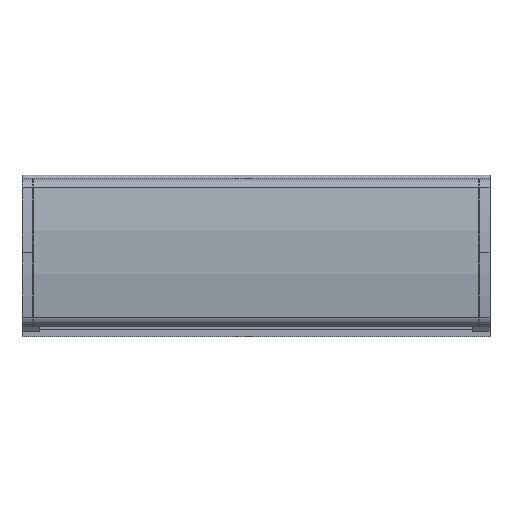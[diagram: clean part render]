
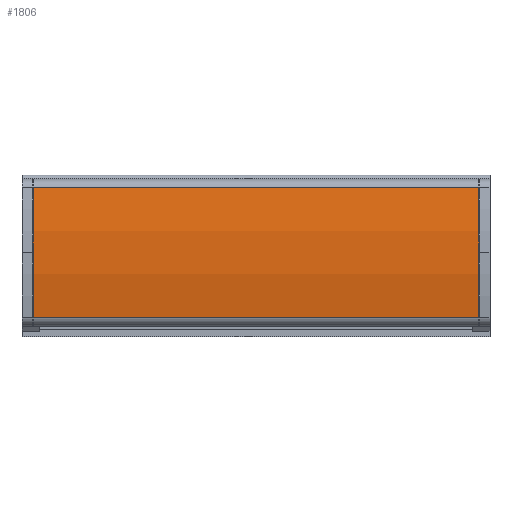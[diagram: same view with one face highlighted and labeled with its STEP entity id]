
A CAD part, top view. The second image highlights one B-rep face of the part: STEP entity #1806.
In plain terms, the highlighted cylindrical face has radius 94.514 mm (diameter 189.028 mm), a partial arc.
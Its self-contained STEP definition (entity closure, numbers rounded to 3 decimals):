
#188 = VERTEX_POINT ( 'NONE', #10835 ) ;
#303 = VECTOR ( 'NONE', #9126, 1000. ) ;
#380 = VERTEX_POINT ( 'NONE', #11849 ) ;
#448 = VECTOR ( 'NONE', #11077, 1000. ) ;
#1011 = CYLINDRICAL_SURFACE ( 'NONE', #1329, 94.514 ) ;
#1068 = AXIS2_PLACEMENT_3D ( 'NONE', #7229, #1751, #8161 ) ;
#1177 = DIRECTION ( 'NONE',  ( 1., 0., 0. ) ) ;
#1329 = AXIS2_PLACEMENT_3D ( 'NONE', #3498, #9912, #9003 ) ;
#1751 = DIRECTION ( 'NONE',  ( 1., 0., 0. ) ) ;
#1806 = ADVANCED_FACE ( 'NONE', ( #8606 ), #1011, .T. ) ;
#2404 = ORIENTED_EDGE ( 'NONE', *, *, #11282, .F. ) ;
#2411 = VERTEX_POINT ( 'NONE', #10478 ) ;
#3498 = CARTESIAN_POINT ( 'NONE',  ( 125., 4.295, 88.334 ) ) ;
#3821 = ORIENTED_EDGE ( 'NONE', *, *, #9531, .T. ) ;
#5815 = CIRCLE ( 'NONE', #7200, 94.514 ) ;
#5936 = ORIENTED_EDGE ( 'NONE', *, *, #10359, .T. ) ;
#6653 = CARTESIAN_POINT ( 'NONE',  ( 125., 4.295, 88.334 ) ) ;
#7200 = AXIS2_PLACEMENT_3D ( 'NONE', #6653, #1177, #7587 ) ;
#7229 = CARTESIAN_POINT ( 'NONE',  ( 0., 4.295, 88.334 ) ) ;
#7587 = DIRECTION ( 'NONE',  ( 0., 0., -1. ) ) ;
#7616 = LINE ( 'NONE', #8205, #303 ) ;
#7784 = CIRCLE ( 'NONE', #1068, 94.514 ) ;
#7862 = EDGE_CURVE ( 'NONE', #2411, #9232, #5815, .T. ) ;
#8053 = LINE ( 'NONE', #8347, #448 ) ;
#8161 = DIRECTION ( 'NONE',  ( 0., 0., -1. ) ) ;
#8205 = CARTESIAN_POINT ( 'NONE',  ( 125., -13.908, -4.41 ) ) ;
#8347 = CARTESIAN_POINT ( 'NONE',  ( 125., 22.498, -4.41 ) ) ;
#8406 = EDGE_LOOP ( 'NONE', ( #3821, #2404, #11422, #5936 ) ) ;
#8606 = FACE_OUTER_BOUND ( 'NONE', #8406, .T. ) ;
#9003 = DIRECTION ( 'NONE',  ( 0., 0., 1. ) ) ;
#9126 = DIRECTION ( 'NONE',  ( -1., 0., 0. ) ) ;
#9232 = VERTEX_POINT ( 'NONE', #9514 ) ;
#9514 = CARTESIAN_POINT ( 'NONE',  ( 125., 22.498, -4.41 ) ) ;
#9531 = EDGE_CURVE ( 'NONE', #188, #380, #7784, .T. ) ;
#9912 = DIRECTION ( 'NONE',  ( -1., 0., 0. ) ) ;
#10359 = EDGE_CURVE ( 'NONE', #2411, #188, #7616, .T. ) ;
#10478 = CARTESIAN_POINT ( 'NONE',  ( 125., -13.908, -4.41 ) ) ;
#10835 = CARTESIAN_POINT ( 'NONE',  ( 0., -13.908, -4.41 ) ) ;
#11077 = DIRECTION ( 'NONE',  ( -1., 0., 0. ) ) ;
#11282 = EDGE_CURVE ( 'NONE', #9232, #380, #8053, .T. ) ;
#11422 = ORIENTED_EDGE ( 'NONE', *, *, #7862, .F. ) ;
#11849 = CARTESIAN_POINT ( 'NONE',  ( 0., 22.498, -4.41 ) ) ;
